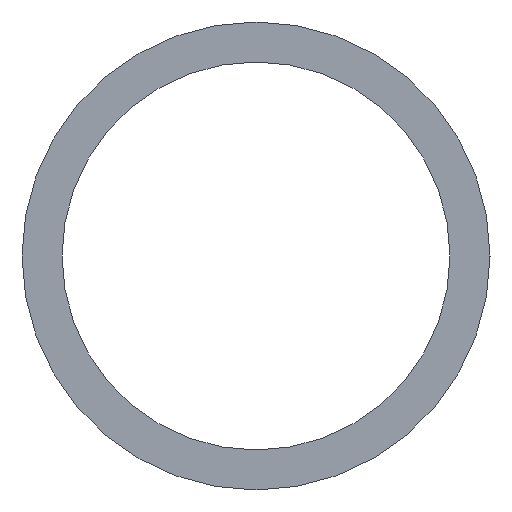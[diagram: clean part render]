
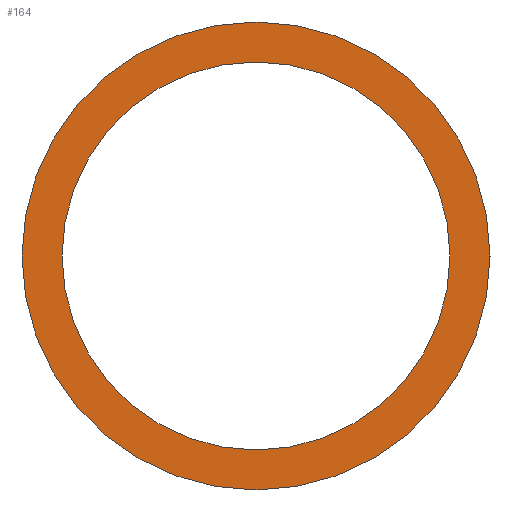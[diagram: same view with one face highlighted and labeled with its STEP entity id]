
A CAD part, left-side view. The second image highlights one B-rep face of the part: STEP entity #164.
In plain terms, the highlighted planar face has unit normal (-1, 0, 0).
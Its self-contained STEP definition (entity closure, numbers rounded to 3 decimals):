
#14 = AXIS2_PLACEMENT_3D ( 'NONE', #47, #130, #128 ) ;
#15 = CARTESIAN_POINT ( 'NONE',  ( 5105., 3775., 5775.85 ) ) ;
#17 = VERTEX_POINT ( 'NONE', #33 ) ;
#22 = DIRECTION ( 'NONE',  ( 0., -1., 0. ) ) ;
#24 = AXIS2_PLACEMENT_3D ( 'NONE', #15, #45, #96 ) ;
#33 = CARTESIAN_POINT ( 'NONE',  ( 5105., 3788.45, 5775.85 ) ) ;
#45 = DIRECTION ( 'NONE',  ( -1., 0., 0. ) ) ;
#47 = CARTESIAN_POINT ( 'NONE',  ( 5105., 3775., 5775.85 ) ) ;
#48 = AXIS2_PLACEMENT_3D ( 'NONE', #58, #171, #22 ) ;
#51 = EDGE_LOOP ( 'NONE', ( #166, #155 ) ) ;
#58 = CARTESIAN_POINT ( 'NONE',  ( 5105., 3775., 5775.85 ) ) ;
#59 = CIRCLE ( 'NONE', #24, 11.15 ) ;
#65 = DIRECTION ( 'NONE',  ( -1., 0., 0. ) ) ;
#68 = DIRECTION ( 'NONE',  ( 0., -1., 0. ) ) ;
#84 = CARTESIAN_POINT ( 'NONE',  ( 5105., 3763.85, 5775.85 ) ) ;
#93 = ORIENTED_EDGE ( 'NONE', *, *, #135, .T. ) ;
#94 = AXIS2_PLACEMENT_3D ( 'NONE', #186, #65, #68 ) ;
#96 = DIRECTION ( 'NONE',  ( 0., -1., 0. ) ) ;
#109 = DIRECTION ( 'NONE',  ( 0., -1., 0. ) ) ;
#112 = CIRCLE ( 'NONE', #48, 13.45 ) ;
#116 = EDGE_LOOP ( 'NONE', ( #134, #93 ) ) ;
#118 = VERTEX_POINT ( 'NONE', #183 ) ;
#124 = EDGE_CURVE ( 'NONE', #151, #198, #202, .T. ) ;
#126 = CARTESIAN_POINT ( 'NONE',  ( 5105., 3786.15, 5775.85 ) ) ;
#128 = DIRECTION ( 'NONE',  ( 0., -1., 0. ) ) ;
#130 = DIRECTION ( 'NONE',  ( -1., 0., 0. ) ) ;
#134 = ORIENTED_EDGE ( 'NONE', *, *, #141, .T. ) ;
#135 = EDGE_CURVE ( 'NONE', #118, #17, #112, .T. ) ;
#141 = EDGE_CURVE ( 'NONE', #17, #118, #165, .T. ) ;
#143 = DIRECTION ( 'NONE',  ( -1., 0., 0. ) ) ;
#144 = FACE_BOUND ( 'NONE', #51, .T. ) ;
#151 = VERTEX_POINT ( 'NONE', #126 ) ;
#155 = ORIENTED_EDGE ( 'NONE', *, *, #158, .F. ) ;
#158 = EDGE_CURVE ( 'NONE', #198, #151, #59, .T. ) ;
#164 = ADVANCED_FACE ( 'NONE', ( #211, #144 ), #192, .T. ) ;
#165 = CIRCLE ( 'NONE', #94, 13.45 ) ;
#166 = ORIENTED_EDGE ( 'NONE', *, *, #124, .F. ) ;
#167 = CARTESIAN_POINT ( 'NONE',  ( 5105., 3775., 5775.85 ) ) ;
#169 = AXIS2_PLACEMENT_3D ( 'NONE', #167, #143, #109 ) ;
#171 = DIRECTION ( 'NONE',  ( -1., 0., 0. ) ) ;
#183 = CARTESIAN_POINT ( 'NONE',  ( 5105., 3761.55, 5775.85 ) ) ;
#186 = CARTESIAN_POINT ( 'NONE',  ( 5105., 3775., 5775.85 ) ) ;
#192 = PLANE ( 'NONE',  #14 ) ;
#198 = VERTEX_POINT ( 'NONE', #84 ) ;
#202 = CIRCLE ( 'NONE', #169, 11.15 ) ;
#211 = FACE_OUTER_BOUND ( 'NONE', #116, .T. ) ;
